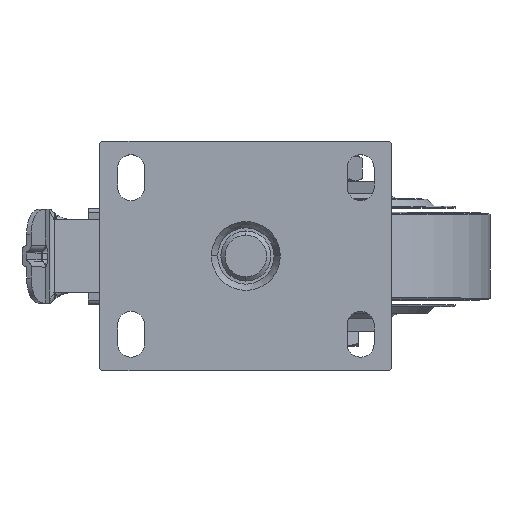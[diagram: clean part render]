
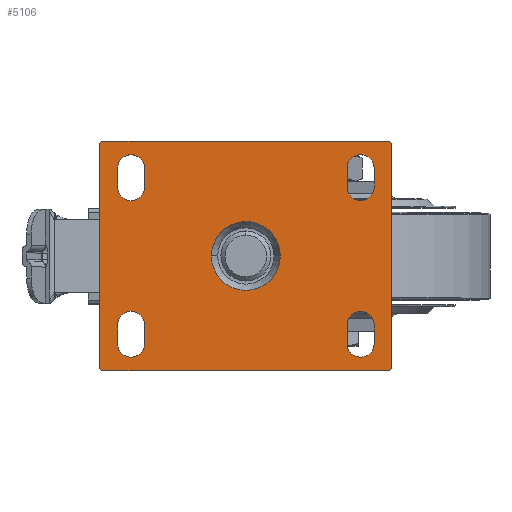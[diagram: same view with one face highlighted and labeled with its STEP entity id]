
A CAD part, top view. The second image highlights one B-rep face of the part: STEP entity #5106.
In plain terms, the highlighted planar face has unit normal (0, 0, 1).
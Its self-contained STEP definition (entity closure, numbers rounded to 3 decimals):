
#4463=DIRECTION('',(0.707,-0.707,0.));
#4464=VECTOR('',#4463,1.414);
#4465=CARTESIAN_POINT('',(-112.,-54.,122.));
#4466=LINE('',#4465,#4464);
#4467=DIRECTION('',(0.,-1.,0.));
#4468=VECTOR('',#4467,108.);
#4469=CARTESIAN_POINT('',(-112.,54.,122.));
#4470=LINE('',#4469,#4468);
#4471=DIRECTION('',(-0.707,-0.707,0.));
#4472=VECTOR('',#4471,1.414);
#4473=CARTESIAN_POINT('',(-111.,55.,122.));
#4474=LINE('',#4473,#4472);
#4475=DIRECTION('',(-1.,0.,0.));
#4476=VECTOR('',#4475,138.);
#4477=CARTESIAN_POINT('',(27.,55.,122.));
#4478=LINE('',#4477,#4476);
#4479=DIRECTION('',(-0.707,0.707,0.));
#4480=VECTOR('',#4479,1.414);
#4481=CARTESIAN_POINT('',(28.,54.,122.));
#4482=LINE('',#4481,#4480);
#4483=DIRECTION('',(0.,1.,0.));
#4484=VECTOR('',#4483,108.);
#4485=CARTESIAN_POINT('',(28.,-54.,122.));
#4486=LINE('',#4485,#4484);
#4487=DIRECTION('',(0.707,0.707,0.));
#4488=VECTOR('',#4487,1.414);
#4489=CARTESIAN_POINT('',(27.,-55.,122.));
#4490=LINE('',#4489,#4488);
#4491=DIRECTION('',(1.,0.,0.));
#4492=VECTOR('',#4491,138.);
#4493=CARTESIAN_POINT('',(-111.,-55.,122.));
#4494=LINE('',#4493,#4492);
#4495=CARTESIAN_POINT('',(-42.,0.,122.));
#4496=DIRECTION('',(0.,0.,-1.));
#4497=DIRECTION('',(-1.,0.,0.));
#4498=AXIS2_PLACEMENT_3D('',#4495,#4496,#4497);
#4500=CARTESIAN_POINT('',(-42.,0.,122.));
#4501=DIRECTION('',(0.,0.,-1.));
#4502=DIRECTION('',(1.,0.,0.));
#4503=AXIS2_PLACEMENT_3D('',#4500,#4501,#4502);
#4505=CARTESIAN_POINT('',(13.,33.,122.));
#4506=DIRECTION('',(0.,0.,1.));
#4507=DIRECTION('',(-1.,0.,0.));
#4508=AXIS2_PLACEMENT_3D('',#4505,#4506,#4507);
#4510=DIRECTION('',(0.,1.,0.));
#4511=VECTOR('',#4510,9.);
#4512=CARTESIAN_POINT('',(19.5,33.,122.));
#4513=LINE('',#4512,#4511);
#4514=CARTESIAN_POINT('',(13.,42.,122.));
#4515=DIRECTION('',(0.,0.,1.));
#4516=DIRECTION('',(1.,0.,0.));
#4517=AXIS2_PLACEMENT_3D('',#4514,#4515,#4516);
#4519=DIRECTION('',(0.,-1.,0.));
#4520=VECTOR('',#4519,9.);
#4521=CARTESIAN_POINT('',(6.5,42.,122.));
#4522=LINE('',#4521,#4520);
#4523=CARTESIAN_POINT('',(-97.,33.,122.));
#4524=DIRECTION('',(0.,0.,-1.));
#4525=DIRECTION('',(1.,0.,0.));
#4526=AXIS2_PLACEMENT_3D('',#4523,#4524,#4525);
#4528=DIRECTION('',(0.,-1.,0.));
#4529=VECTOR('',#4528,9.);
#4530=CARTESIAN_POINT('',(-90.5,42.,122.));
#4531=LINE('',#4530,#4529);
#4532=CARTESIAN_POINT('',(-97.,42.,122.));
#4533=DIRECTION('',(0.,0.,-1.));
#4534=DIRECTION('',(-1.,0.,0.));
#4535=AXIS2_PLACEMENT_3D('',#4532,#4533,#4534);
#4537=DIRECTION('',(0.,1.,0.));
#4538=VECTOR('',#4537,9.);
#4539=CARTESIAN_POINT('',(-103.5,33.,122.));
#4540=LINE('',#4539,#4538);
#4541=CARTESIAN_POINT('',(13.,-33.,122.));
#4542=DIRECTION('',(0.,0.,-1.));
#4543=DIRECTION('',(-1.,0.,0.));
#4544=AXIS2_PLACEMENT_3D('',#4541,#4542,#4543);
#4546=DIRECTION('',(0.,1.,0.));
#4547=VECTOR('',#4546,9.);
#4548=CARTESIAN_POINT('',(6.5,-42.,122.));
#4549=LINE('',#4548,#4547);
#4550=CARTESIAN_POINT('',(13.,-42.,122.));
#4551=DIRECTION('',(0.,0.,-1.));
#4552=DIRECTION('',(1.,0.,0.));
#4553=AXIS2_PLACEMENT_3D('',#4550,#4551,#4552);
#4555=DIRECTION('',(0.,-1.,0.));
#4556=VECTOR('',#4555,9.);
#4557=CARTESIAN_POINT('',(19.5,-33.,122.));
#4558=LINE('',#4557,#4556);
#4559=CARTESIAN_POINT('',(-97.,-33.,122.));
#4560=DIRECTION('',(0.,0.,1.));
#4561=DIRECTION('',(1.,0.,0.));
#4562=AXIS2_PLACEMENT_3D('',#4559,#4560,#4561);
#4564=DIRECTION('',(0.,-1.,0.));
#4565=VECTOR('',#4564,9.);
#4566=CARTESIAN_POINT('',(-103.5,-33.,122.));
#4567=LINE('',#4566,#4565);
#4568=CARTESIAN_POINT('',(-97.,-42.,122.));
#4569=DIRECTION('',(0.,0.,1.));
#4570=DIRECTION('',(-1.,0.,0.));
#4571=AXIS2_PLACEMENT_3D('',#4568,#4569,#4570);
#4573=DIRECTION('',(0.,1.,0.));
#4574=VECTOR('',#4573,9.);
#4575=CARTESIAN_POINT('',(-90.5,-42.,122.));
#4576=LINE('',#4575,#4574);
#4675=CARTESIAN_POINT('',(-112.,-54.,122.));
#4676=VERTEX_POINT('',#4675);
#4677=CARTESIAN_POINT('',(-111.,-55.,122.));
#4678=VERTEX_POINT('',#4677);
#4683=CARTESIAN_POINT('',(-111.,55.,122.));
#4684=VERTEX_POINT('',#4683);
#4685=CARTESIAN_POINT('',(-112.,54.,122.));
#4686=VERTEX_POINT('',#4685);
#4691=CARTESIAN_POINT('',(27.,-55.,122.));
#4692=VERTEX_POINT('',#4691);
#4693=CARTESIAN_POINT('',(28.,-54.,122.));
#4694=VERTEX_POINT('',#4693);
#4699=CARTESIAN_POINT('',(28.,54.,122.));
#4700=VERTEX_POINT('',#4699);
#4701=CARTESIAN_POINT('',(27.,55.,122.));
#4702=VERTEX_POINT('',#4701);
#4703=CARTESIAN_POINT('',(-58.5,0.,122.));
#4704=CARTESIAN_POINT('',(-25.5,0.,122.));
#4705=VERTEX_POINT('',#4703);
#4706=VERTEX_POINT('',#4704);
#4719=CARTESIAN_POINT('',(6.5,33.,122.));
#4720=CARTESIAN_POINT('',(19.5,33.,122.));
#4721=VERTEX_POINT('',#4719);
#4722=VERTEX_POINT('',#4720);
#4723=CARTESIAN_POINT('',(19.5,42.,122.));
#4724=VERTEX_POINT('',#4723);
#4725=CARTESIAN_POINT('',(6.5,42.,122.));
#4726=VERTEX_POINT('',#4725);
#4728=CARTESIAN_POINT('',(-90.5,33.,122.));
#4730=VERTEX_POINT('',#4728);
#4732=CARTESIAN_POINT('',(-103.5,33.,122.));
#4734=VERTEX_POINT('',#4732);
#4736=CARTESIAN_POINT('',(-103.5,42.,122.));
#4738=VERTEX_POINT('',#4736);
#4740=CARTESIAN_POINT('',(-90.5,42.,122.));
#4742=VERTEX_POINT('',#4740);
#4744=CARTESIAN_POINT('',(6.5,-33.,122.));
#4746=VERTEX_POINT('',#4744);
#4748=CARTESIAN_POINT('',(19.5,-33.,122.));
#4750=VERTEX_POINT('',#4748);
#4752=CARTESIAN_POINT('',(19.5,-42.,122.));
#4754=VERTEX_POINT('',#4752);
#4756=CARTESIAN_POINT('',(6.5,-42.,122.));
#4758=VERTEX_POINT('',#4756);
#4760=CARTESIAN_POINT('',(-90.5,-33.,122.));
#4762=VERTEX_POINT('',#4760);
#4764=CARTESIAN_POINT('',(-103.5,-33.,122.));
#4766=VERTEX_POINT('',#4764);
#4768=CARTESIAN_POINT('',(-103.5,-42.,122.));
#4770=VERTEX_POINT('',#4768);
#4772=CARTESIAN_POINT('',(-90.5,-42.,122.));
#4774=VERTEX_POINT('',#4772);
#5045=CARTESIAN_POINT('',(-42.,0.,122.));
#5046=DIRECTION('',(0.,0.,1.));
#5047=DIRECTION('',(-1.,0.,0.));
#5048=AXIS2_PLACEMENT_3D('',#5045,#5046,#5047);
#5049=PLANE('',#5048);
#5050=ORIENTED_EDGE('',*,*,#4885,.F.);
#5051=ORIENTED_EDGE('',*,*,#4908,.F.);
#5052=ORIENTED_EDGE('',*,*,#4928,.F.);
#5053=ORIENTED_EDGE('',*,*,#4950,.F.);
#5054=ORIENTED_EDGE('',*,*,#4970,.F.);
#5055=ORIENTED_EDGE('',*,*,#4990,.F.);
#5056=ORIENTED_EDGE('',*,*,#5012,.F.);
#5057=ORIENTED_EDGE('',*,*,#5031,.F.);
#5058=EDGE_LOOP('',(#5050,#5051,#5052,#5053,#5054,#5055,#5056,#5057));
#5059=FACE_OUTER_BOUND('',#5058,.F.);
#5061=ORIENTED_EDGE('',*,*,#5060,.F.);
#5063=ORIENTED_EDGE('',*,*,#5062,.F.);
#5064=EDGE_LOOP('',(#5061,#5063));
#5065=FACE_BOUND('',#5064,.F.);
#5067=ORIENTED_EDGE('',*,*,#5066,.T.);
#5069=ORIENTED_EDGE('',*,*,#5068,.T.);
#5071=ORIENTED_EDGE('',*,*,#5070,.T.);
#5073=ORIENTED_EDGE('',*,*,#5072,.T.);
#5074=EDGE_LOOP('',(#5067,#5069,#5071,#5073));
#5075=FACE_BOUND('',#5074,.F.);
#5077=ORIENTED_EDGE('',*,*,#5076,.F.);
#5079=ORIENTED_EDGE('',*,*,#5078,.F.);
#5081=ORIENTED_EDGE('',*,*,#5080,.F.);
#5083=ORIENTED_EDGE('',*,*,#5082,.F.);
#5084=EDGE_LOOP('',(#5077,#5079,#5081,#5083));
#5085=FACE_BOUND('',#5084,.F.);
#5087=ORIENTED_EDGE('',*,*,#5086,.F.);
#5089=ORIENTED_EDGE('',*,*,#5088,.F.);
#5091=ORIENTED_EDGE('',*,*,#5090,.F.);
#5093=ORIENTED_EDGE('',*,*,#5092,.F.);
#5094=EDGE_LOOP('',(#5087,#5089,#5091,#5093));
#5095=FACE_BOUND('',#5094,.F.);
#5097=ORIENTED_EDGE('',*,*,#5096,.T.);
#5099=ORIENTED_EDGE('',*,*,#5098,.T.);
#5101=ORIENTED_EDGE('',*,*,#5100,.T.);
#5103=ORIENTED_EDGE('',*,*,#5102,.T.);
#5104=EDGE_LOOP('',(#5097,#5099,#5101,#5103));
#5105=FACE_BOUND('',#5104,.F.);
#5106=ADVANCED_FACE('',(#5059,#5065,#5075,#5085,#5095,#5105),#5049,.T.);
#4499=CIRCLE('',#4498,16.5);
#4504=CIRCLE('',#4503,16.5);
#4509=CIRCLE('',#4508,6.5);
#4518=CIRCLE('',#4517,6.5);
#4527=CIRCLE('',#4526,6.5);
#4536=CIRCLE('',#4535,6.5);
#4545=CIRCLE('',#4544,6.5);
#4554=CIRCLE('',#4553,6.5);
#4563=CIRCLE('',#4562,6.5);
#4572=CIRCLE('',#4571,6.5);
#4885=EDGE_CURVE('',#4676,#4678,#4466,.T.);
#4908=EDGE_CURVE('',#4686,#4676,#4470,.T.);
#4928=EDGE_CURVE('',#4684,#4686,#4474,.T.);
#4950=EDGE_CURVE('',#4702,#4684,#4478,.T.);
#4970=EDGE_CURVE('',#4700,#4702,#4482,.T.);
#4990=EDGE_CURVE('',#4694,#4700,#4486,.T.);
#5012=EDGE_CURVE('',#4692,#4694,#4490,.T.);
#5031=EDGE_CURVE('',#4678,#4692,#4494,.T.);
#5060=EDGE_CURVE('',#4705,#4706,#4499,.T.);
#5062=EDGE_CURVE('',#4706,#4705,#4504,.T.);
#5066=EDGE_CURVE('',#4721,#4722,#4509,.T.);
#5068=EDGE_CURVE('',#4722,#4724,#4513,.T.);
#5070=EDGE_CURVE('',#4724,#4726,#4518,.T.);
#5072=EDGE_CURVE('',#4726,#4721,#4522,.T.);
#5076=EDGE_CURVE('',#4730,#4734,#4527,.T.);
#5078=EDGE_CURVE('',#4742,#4730,#4531,.T.);
#5080=EDGE_CURVE('',#4738,#4742,#4536,.T.);
#5082=EDGE_CURVE('',#4734,#4738,#4540,.T.);
#5086=EDGE_CURVE('',#4746,#4750,#4545,.T.);
#5088=EDGE_CURVE('',#4758,#4746,#4549,.T.);
#5090=EDGE_CURVE('',#4754,#4758,#4554,.T.);
#5092=EDGE_CURVE('',#4750,#4754,#4558,.T.);
#5096=EDGE_CURVE('',#4762,#4766,#4563,.T.);
#5098=EDGE_CURVE('',#4766,#4770,#4567,.T.);
#5100=EDGE_CURVE('',#4770,#4774,#4572,.T.);
#5102=EDGE_CURVE('',#4774,#4762,#4576,.T.);
